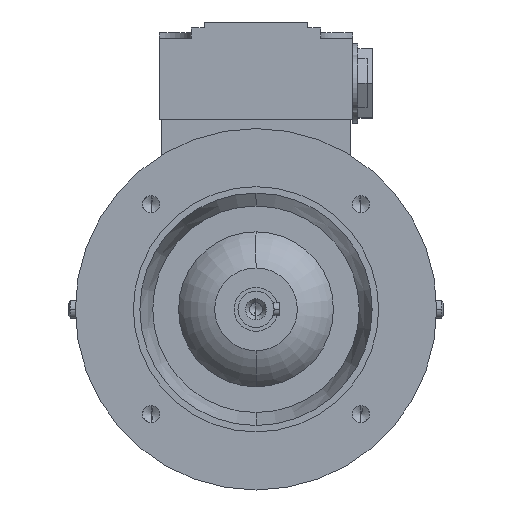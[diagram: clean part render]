
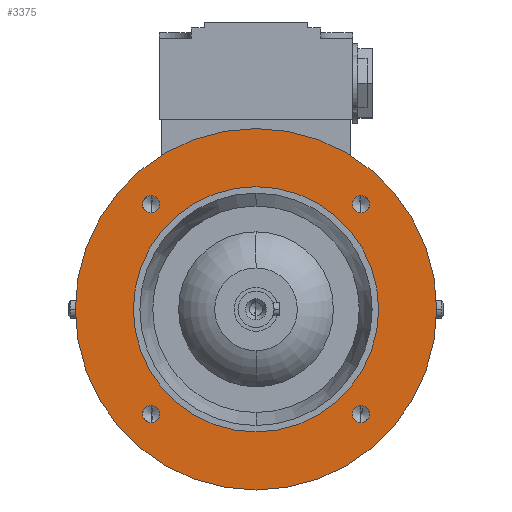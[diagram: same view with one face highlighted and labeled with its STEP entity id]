
A CAD part, left-side view. The second image highlights one B-rep face of the part: STEP entity #3375.
In plain terms, the highlighted planar face has unit normal (-1, 0, 0).
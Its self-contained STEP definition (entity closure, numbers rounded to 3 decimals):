
#182 = CARTESIAN_POINT ( 'NONE',  ( -22.5, -40.659, 40.659 ) ) ;
#222 = CARTESIAN_POINT ( 'NONE',  ( -22.5, 40.659, -43.984 ) ) ;
#365 = CARTESIAN_POINT ( 'NONE',  ( -22.5, 0., 0. ) ) ;
#467 = CARTESIAN_POINT ( 'NONE',  ( -22.5, 40.659, 37.334 ) ) ;
#619 = CARTESIAN_POINT ( 'NONE',  ( -22.5, 0., 70. ) ) ;
#630 = DIRECTION ( 'NONE',  ( 1., 0., 0. ) ) ;
#669 = ORIENTED_EDGE ( 'NONE', *, *, #7252, .T. ) ;
#682 = VERTEX_POINT ( 'NONE', #14768 ) ;
#707 = DIRECTION ( 'NONE',  ( 0., 0., -1. ) ) ;
#880 = CARTESIAN_POINT ( 'NONE',  ( -22.5, 40.659, -40.659 ) ) ;
#893 = ORIENTED_EDGE ( 'NONE', *, *, #13090, .F. ) ;
#978 = AXIS2_PLACEMENT_3D ( 'NONE', #4142, #15462, #2894 ) ;
#1167 = VERTEX_POINT ( 'NONE', #619 ) ;
#1224 = VERTEX_POINT ( 'NONE', #222 ) ;
#1226 = VERTEX_POINT ( 'NONE', #14280 ) ;
#1233 = EDGE_CURVE ( 'NONE', #1390, #1167, #5346, .T. ) ;
#1264 = EDGE_LOOP ( 'NONE', ( #6380, #2568 ) ) ;
#1355 = CIRCLE ( 'NONE', #15287, 3.325 ) ;
#1390 = VERTEX_POINT ( 'NONE', #11569 ) ;
#1424 = AXIS2_PLACEMENT_3D ( 'NONE', #880, #7481, #15271 ) ;
#1982 = DIRECTION ( 'NONE',  ( 1., 0., 0. ) ) ;
#2017 = DIRECTION ( 'NONE',  ( -1., 0., 0. ) ) ;
#2250 = EDGE_CURVE ( 'NONE', #3534, #9138, #1355, .T. ) ;
#2312 = CARTESIAN_POINT ( 'NONE',  ( -22.5, -40.659, -43.984 ) ) ;
#2331 = CARTESIAN_POINT ( 'NONE',  ( -22.5, 0., -47.5 ) ) ;
#2568 = ORIENTED_EDGE ( 'NONE', *, *, #13141, .T. ) ;
#2713 = CARTESIAN_POINT ( 'NONE',  ( -22.5, 0., 0. ) ) ;
#2775 = DIRECTION ( 'NONE',  ( 0., 0., -1. ) ) ;
#2894 = DIRECTION ( 'NONE',  ( 0., 0., -1. ) ) ;
#2985 = CARTESIAN_POINT ( 'NONE',  ( -22.5, -40.659, 40.659 ) ) ;
#3013 = EDGE_LOOP ( 'NONE', ( #893, #3556 ) ) ;
#3141 = CARTESIAN_POINT ( 'NONE',  ( -22.5, -40.659, -40.659 ) ) ;
#3268 = DIRECTION ( 'NONE',  ( 0., 0., 1. ) ) ;
#3375 = ADVANCED_FACE ( 'NONE', ( #14990, #7290, #9635, #4681, #12397, #14746 ), #10960, .T. ) ;
#3534 = VERTEX_POINT ( 'NONE', #3746 ) ;
#3556 = ORIENTED_EDGE ( 'NONE', *, *, #1233, .F. ) ;
#3707 = DIRECTION ( 'NONE',  ( 0., 0., -1. ) ) ;
#3746 = CARTESIAN_POINT ( 'NONE',  ( -22.5, -40.659, 43.984 ) ) ;
#4142 = CARTESIAN_POINT ( 'NONE',  ( -22.5, 40.659, 40.659 ) ) ;
#4177 = EDGE_CURVE ( 'NONE', #7607, #1224, #8199, .T. ) ;
#4423 = EDGE_LOOP ( 'NONE', ( #669, #14639 ) ) ;
#4583 = ORIENTED_EDGE ( 'NONE', *, *, #12098, .T. ) ;
#4681 = FACE_BOUND ( 'NONE', #6906, .T. ) ;
#4730 = DIRECTION ( 'NONE',  ( 0., 0., 1. ) ) ;
#4860 = VERTEX_POINT ( 'NONE', #8399 ) ;
#4915 = CIRCLE ( 'NONE', #11563, 70. ) ;
#5128 = ORIENTED_EDGE ( 'NONE', *, *, #2250, .T. ) ;
#5346 = CIRCLE ( 'NONE', #6429, 70. ) ;
#5386 = DIRECTION ( 'NONE',  ( 0., 0., 1. ) ) ;
#5765 = ORIENTED_EDGE ( 'NONE', *, *, #11948, .T. ) ;
#5959 = CIRCLE ( 'NONE', #14520, 3.325 ) ;
#6242 = DIRECTION ( 'NONE',  ( 1., 0., 0. ) ) ;
#6342 = VERTEX_POINT ( 'NONE', #467 ) ;
#6380 = ORIENTED_EDGE ( 'NONE', *, *, #11268, .T. ) ;
#6429 = AXIS2_PLACEMENT_3D ( 'NONE', #2713, #7824, #11353 ) ;
#6904 = AXIS2_PLACEMENT_3D ( 'NONE', #16098, #2017, #3268 ) ;
#6906 = EDGE_LOOP ( 'NONE', ( #5765, #9409 ) ) ;
#7074 = CARTESIAN_POINT ( 'NONE',  ( -22.5, -40.659, -40.659 ) ) ;
#7161 = DIRECTION ( 'NONE',  ( 0., 0., 1. ) ) ;
#7252 = EDGE_CURVE ( 'NONE', #6342, #4860, #13533, .T. ) ;
#7290 = FACE_BOUND ( 'NONE', #9570, .T. ) ;
#7315 = CIRCLE ( 'NONE', #9452, 47.5 ) ;
#7481 = DIRECTION ( 'NONE',  ( 1., 0., 0. ) ) ;
#7607 = VERTEX_POINT ( 'NONE', #7909 ) ;
#7824 = DIRECTION ( 'NONE',  ( 1., 0., 0. ) ) ;
#7838 = AXIS2_PLACEMENT_3D ( 'NONE', #16334, #13874, #10181 ) ;
#7909 = CARTESIAN_POINT ( 'NONE',  ( -22.5, 40.659, -37.334 ) ) ;
#8099 = DIRECTION ( 'NONE',  ( 1., 0., 0. ) ) ;
#8199 = CIRCLE ( 'NONE', #13811, 3.325 ) ;
#8252 = DIRECTION ( 'NONE',  ( 1., 0., 0. ) ) ;
#8399 = CARTESIAN_POINT ( 'NONE',  ( -22.5, 40.659, 43.984 ) ) ;
#8828 = CARTESIAN_POINT ( 'NONE',  ( -22.5, 0., 0. ) ) ;
#9074 = DIRECTION ( 'NONE',  ( 1., 0., 0. ) ) ;
#9138 = VERTEX_POINT ( 'NONE', #13078 ) ;
#9409 = ORIENTED_EDGE ( 'NONE', *, *, #4177, .T. ) ;
#9452 = AXIS2_PLACEMENT_3D ( 'NONE', #365, #9074, #5386 ) ;
#9570 = EDGE_LOOP ( 'NONE', ( #15412, #5128 ) ) ;
#9601 = VERTEX_POINT ( 'NONE', #2312 ) ;
#9635 = FACE_BOUND ( 'NONE', #1264, .T. ) ;
#9990 = ORIENTED_EDGE ( 'NONE', *, *, #15679, .T. ) ;
#10077 = CARTESIAN_POINT ( 'NONE',  ( -22.5, 40.659, -40.659 ) ) ;
#10181 = DIRECTION ( 'NONE',  ( 0., 0., -1. ) ) ;
#10774 = CIRCLE ( 'NONE', #7838, 3.325 ) ;
#10829 = VERTEX_POINT ( 'NONE', #2331 ) ;
#10960 = PLANE ( 'NONE',  #6904 ) ;
#11268 = EDGE_CURVE ( 'NONE', #9601, #682, #5959, .T. ) ;
#11353 = DIRECTION ( 'NONE',  ( 0., 0., 1. ) ) ;
#11563 = AXIS2_PLACEMENT_3D ( 'NONE', #14946, #1982, #7161 ) ;
#11569 = CARTESIAN_POINT ( 'NONE',  ( -22.5, 0., -70. ) ) ;
#11948 = EDGE_CURVE ( 'NONE', #1224, #7607, #16419, .T. ) ;
#12098 = EDGE_CURVE ( 'NONE', #1226, #10829, #7315, .T. ) ;
#12397 = FACE_BOUND ( 'NONE', #4423, .T. ) ;
#12599 = AXIS2_PLACEMENT_3D ( 'NONE', #2985, #8099, #13285 ) ;
#12914 = CIRCLE ( 'NONE', #15063, 3.325 ) ;
#13078 = CARTESIAN_POINT ( 'NONE',  ( -22.5, -40.659, 37.334 ) ) ;
#13090 = EDGE_CURVE ( 'NONE', #1167, #1390, #4915, .T. ) ;
#13141 = EDGE_CURVE ( 'NONE', #682, #9601, #12914, .T. ) ;
#13149 = CIRCLE ( 'NONE', #12599, 3.325 ) ;
#13285 = DIRECTION ( 'NONE',  ( 0., 0., -1. ) ) ;
#13363 = DIRECTION ( 'NONE',  ( 0., 0., -1. ) ) ;
#13533 = CIRCLE ( 'NONE', #978, 3.325 ) ;
#13643 = AXIS2_PLACEMENT_3D ( 'NONE', #8828, #6242, #4730 ) ;
#13811 = AXIS2_PLACEMENT_3D ( 'NONE', #10077, #15198, #3707 ) ;
#13874 = DIRECTION ( 'NONE',  ( 1., 0., 0. ) ) ;
#14280 = CARTESIAN_POINT ( 'NONE',  ( -22.5, 0., 47.5 ) ) ;
#14520 = AXIS2_PLACEMENT_3D ( 'NONE', #7074, #630, #707 ) ;
#14536 = EDGE_CURVE ( 'NONE', #9138, #3534, #13149, .T. ) ;
#14639 = ORIENTED_EDGE ( 'NONE', *, *, #16481, .T. ) ;
#14746 = FACE_OUTER_BOUND ( 'NONE', #3013, .T. ) ;
#14768 = CARTESIAN_POINT ( 'NONE',  ( -22.5, -40.659, -37.334 ) ) ;
#14946 = CARTESIAN_POINT ( 'NONE',  ( -22.5, 0., 0. ) ) ;
#14990 = FACE_BOUND ( 'NONE', #16152, .T. ) ;
#15063 = AXIS2_PLACEMENT_3D ( 'NONE', #3141, #8252, #13363 ) ;
#15198 = DIRECTION ( 'NONE',  ( 1., 0., 0. ) ) ;
#15271 = DIRECTION ( 'NONE',  ( 0., 0., -1. ) ) ;
#15287 = AXIS2_PLACEMENT_3D ( 'NONE', #182, #15427, #2775 ) ;
#15412 = ORIENTED_EDGE ( 'NONE', *, *, #14536, .T. ) ;
#15427 = DIRECTION ( 'NONE',  ( 1., 0., 0. ) ) ;
#15462 = DIRECTION ( 'NONE',  ( 1., 0., 0. ) ) ;
#15513 = CIRCLE ( 'NONE', #13643, 47.5 ) ;
#15679 = EDGE_CURVE ( 'NONE', #10829, #1226, #15513, .T. ) ;
#16098 = CARTESIAN_POINT ( 'NONE',  ( -22.5, 0., 58.75 ) ) ;
#16152 = EDGE_LOOP ( 'NONE', ( #4583, #9990 ) ) ;
#16334 = CARTESIAN_POINT ( 'NONE',  ( -22.5, 40.659, 40.659 ) ) ;
#16419 = CIRCLE ( 'NONE', #1424, 3.325 ) ;
#16481 = EDGE_CURVE ( 'NONE', #4860, #6342, #10774, .T. ) ;
